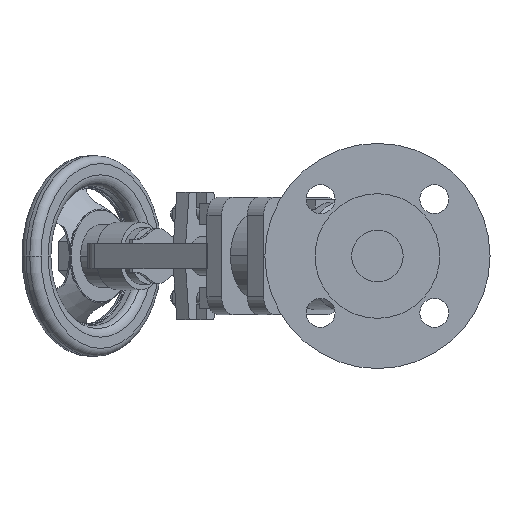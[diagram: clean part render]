
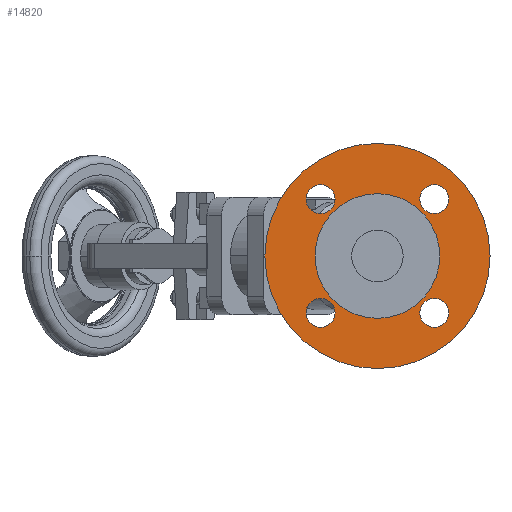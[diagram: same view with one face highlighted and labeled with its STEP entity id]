
A CAD part, left-side view. The second image highlights one B-rep face of the part: STEP entity #14820.
In plain terms, the highlighted planar face has unit normal (-1, 0, 0).
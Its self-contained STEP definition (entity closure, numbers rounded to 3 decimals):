
#4010=CARTESIAN_POINT('',(3.27,-38.77,0.));
#4020=VERTEX_POINT('',#4010);
#4180=CARTESIAN_POINT('',(3.27,38.77,0.));
#4190=VERTEX_POINT('',#4180);
#4220=CARTESIAN_POINT('',(3.27,0.,0.));
#4230=DIRECTION('',(-1.,0.,0.));
#4240=DIRECTION('',(0.,1.,0.));
#4250=AXIS2_PLACEMENT_3D('',#4220,#4230,#4240);
#4260=CIRCLE('',#4250,38.77);
#4270=EDGE_CURVE('',#4020,#4190,#4260,.T.);
#6300=CARTESIAN_POINT('',(3.27,0.,-70.));
#6310=VERTEX_POINT('',#6300);
#6360=CARTESIAN_POINT('',(3.27,0.,0.));
#6370=DIRECTION('',(1.,0.,0.));
#6380=DIRECTION('',(0.,0.,-1.));
#6390=AXIS2_PLACEMENT_3D('',#6360,#6370,#6380);
#6400=CIRCLE('',#6390,70.);
#6410=CARTESIAN_POINT('',(3.27,0.,70.));
#6420=VERTEX_POINT('',#6410);
#6430=EDGE_CURVE('',#6420,#6310,#6400,.T.);
#6790=CARTESIAN_POINT('',(3.27,35.355,-26.355));
#6800=VERTEX_POINT('',#6790);
#6980=CARTESIAN_POINT('',(3.27,35.355,-44.355));
#6990=VERTEX_POINT('',#6980);
#7020=CARTESIAN_POINT('',(3.27,35.355,-35.355));
#7030=DIRECTION('',(-1.,0.,0.));
#7040=DIRECTION('',(0.,0.,-1.));
#7050=AXIS2_PLACEMENT_3D('',#7020,#7030,#7040);
#7060=CIRCLE('',#7050,9.);
#7070=EDGE_CURVE('',#6800,#6990,#7060,.T.);
#7280=CARTESIAN_POINT('',(3.27,-35.355,-44.355));
#7290=VERTEX_POINT('',#7280);
#7340=CARTESIAN_POINT('',(3.27,-35.355,-35.355));
#7350=DIRECTION('',(-1.,0.,0.));
#7360=DIRECTION('',(0.,0.,-1.));
#7370=AXIS2_PLACEMENT_3D('',#7340,#7350,#7360);
#7380=CIRCLE('',#7370,9.);
#7390=CARTESIAN_POINT('',(3.27,-35.355,-26.355));
#7400=VERTEX_POINT('',#7390);
#7410=EDGE_CURVE('',#7400,#7290,#7380,.T.);
#7770=CARTESIAN_POINT('',(3.27,35.355,26.355));
#7780=VERTEX_POINT('',#7770);
#7960=CARTESIAN_POINT('',(3.27,35.355,44.355));
#7970=VERTEX_POINT('',#7960);
#8000=CARTESIAN_POINT('',(3.27,35.355,35.355));
#8010=DIRECTION('',(-1.,0.,0.));
#8020=DIRECTION('',(0.,0.,-1.));
#8030=AXIS2_PLACEMENT_3D('',#8000,#8010,#8020);
#8040=CIRCLE('',#8030,9.);
#8050=EDGE_CURVE('',#7780,#7970,#8040,.T.);
#8260=CARTESIAN_POINT('',(3.27,-35.355,44.355));
#8270=VERTEX_POINT('',#8260);
#8320=CARTESIAN_POINT('',(3.27,-35.355,35.355));
#8330=DIRECTION('',(-1.,0.,0.));
#8340=DIRECTION('',(0.,0.,-1.));
#8350=AXIS2_PLACEMENT_3D('',#8320,#8330,#8340);
#8360=CIRCLE('',#8350,9.);
#8370=CARTESIAN_POINT('',(3.27,-35.355,26.355));
#8380=VERTEX_POINT('',#8370);
#8390=EDGE_CURVE('',#8380,#8270,#8360,.T.);
#14470=CARTESIAN_POINT('',(3.27,0.,0.));
#14480=DIRECTION('',(1.,0.,0.));
#14490=DIRECTION('',(0.,0.,-1.));
#14500=AXIS2_PLACEMENT_3D('',#14470,#14480,#14490);
#14510=PLANE('',#14500);
#14520=EDGE_CURVE('',#8270,#8380,#8360,.T.);
#14530=ORIENTED_EDGE('',*,*,#14520,.F.);
#14540=ORIENTED_EDGE('',*,*,#8390,.F.);
#14550=EDGE_LOOP('',(#14540,#14530));
#14560=FACE_BOUND('',#14550,.T.);
#14570=EDGE_CURVE('',#7970,#7780,#8040,.T.);
#14580=ORIENTED_EDGE('',*,*,#14570,.F.);
#14590=ORIENTED_EDGE('',*,*,#8050,.F.);
#14600=EDGE_LOOP('',(#14590,#14580));
#14610=FACE_BOUND('',#14600,.T.);
#14620=EDGE_CURVE('',#7290,#7400,#7380,.T.);
#14630=ORIENTED_EDGE('',*,*,#14620,.F.);
#14640=ORIENTED_EDGE('',*,*,#7410,.F.);
#14650=EDGE_LOOP('',(#14640,#14630));
#14660=FACE_BOUND('',#14650,.T.);
#14670=EDGE_CURVE('',#6990,#6800,#7060,.T.);
#14680=ORIENTED_EDGE('',*,*,#14670,.F.);
#14690=ORIENTED_EDGE('',*,*,#7070,.F.);
#14700=EDGE_LOOP('',(#14690,#14680));
#14710=FACE_BOUND('',#14700,.T.);
#14720=ORIENTED_EDGE('',*,*,#6430,.F.);
#14730=EDGE_CURVE('',#6310,#6420,#6400,.T.);
#14740=ORIENTED_EDGE('',*,*,#14730,.F.);
#14750=EDGE_LOOP('',(#14740,#14720));
#14760=FACE_OUTER_BOUND('',#14750,.T.);
#14770=EDGE_CURVE('',#4190,#4020,#4260,.T.);
#14780=ORIENTED_EDGE('',*,*,#14770,.F.);
#14790=ORIENTED_EDGE('',*,*,#4270,.F.);
#14800=EDGE_LOOP('',(#14790,#14780));
#14810=FACE_BOUND('',#14800,.T.);
#14820=ADVANCED_FACE('',(#14560,#14610,#14660,#14710,#14760,#14810),
#14510,.F.);
